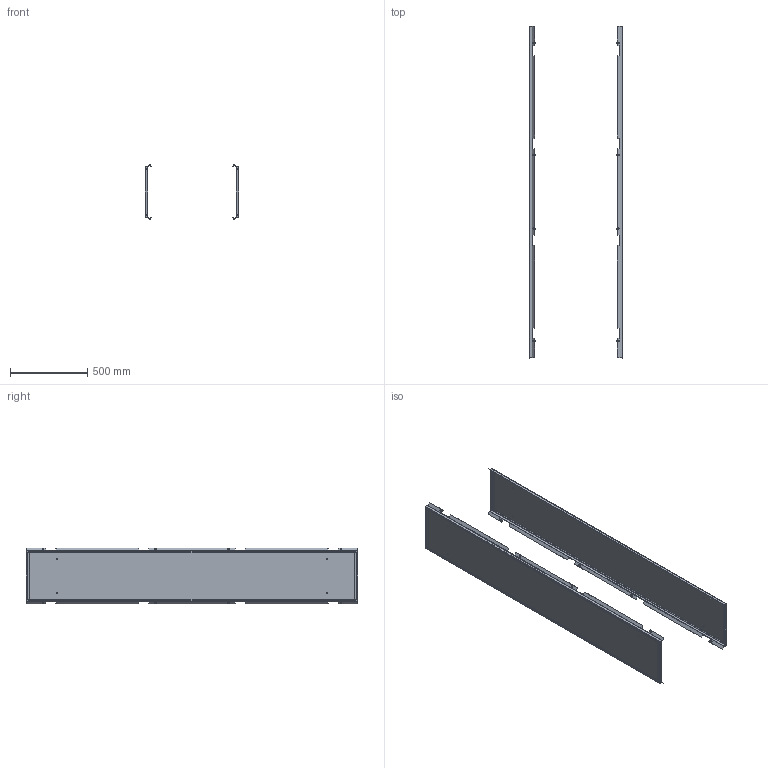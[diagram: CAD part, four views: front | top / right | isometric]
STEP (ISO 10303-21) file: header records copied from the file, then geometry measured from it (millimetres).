
FILE_DESCRIPTION (( 'STEP AP203' ), '1' );
FILE_NAME ('MA1.200.060422.20.00 AleSta-PS224 Áîêîâûå ïàíåëè AleSta 2200x400 (2 øò).STEP', '2025-02-19T14:41:33', ( '' ), ( '' ), 'SwSTEP 2.0', 'SolidWorks 2021', '' );
FILE_SCHEMA (( 'CONFIG_CONTROL_DESIGN' ));
Length unit declared in the file: millimetre
Products named in the file (6): MA1.200.060620.21.00 Ñòåíêà áîêîâàÿ 600x2000_2200å400; MA1.200.060620.21.01 Ïîëîòíî ñòåíêè áîêîâîé 600õ2000_2200å400; Óïëîòíèòåëü ïàíåëè íèæíåé_  ‚=2200; Âèíò ñàìîíàðåçàþùèé ñ ïîòàéíîé ãîëîâêîé Ì5x16 DIN 7500 M TORX, êëàññ ïðî÷íîñòè 8.8, îöèíêîâàííàÿ ñòàëü_Œ5å16; Øïèëüêà Ì6õ12_˜¯¨«ìª  Œ6å12; MA1.200.060422.20.00 AleSta-PS224  Áîêîâûå ïàíåëè AleSta 2200x400 (2 øò)
Assembly tree (24 placements, depth 3):
  MA1.200.060422.20.00 AleSta-PS224  Áîêîâûå ïàíåëè AleSta 2200x400 (2 øò)
    MA1.200.060620.21.00 Ñòåíêà áîêîâàÿ 600x2000_2200å400  x2
      MA1.200.060620.21.01 Ïîëîòíî ñòåíêè áîêîâîé 600õ2000_2200å400
      Øïèëüêà Ì6õ12_˜¯¨«ìª  Œ6å12
      Óïëîòíèòåëü ïàíåëè íèæíåé_  ‚=2200
    Âèíò ñàìîíàðåçàþùèé ñ ïîòàéíîé ãîëîâêîé Ì5x16 DIN 7500 M TORX, êëàññ ïðî÷íîñòè 8.8, îöèíêîâàííàÿ ñòàëü_Œ5å16  x16
Bounding box: 606 x 2145 x 360.73 mm (x, y, z)
Volume: 2381135.1 mm3; surface area: 3843194.5 mm2
Topology: 28 solids, 28 shells, 1116 faces, 2788 edges, 1784 vertices
Faces by surface type: cylinder 636, plane 368, cone 80, bspline 16, torus 16
Entity records: 8629 total; most frequent: CARTESIAN_POINT 1714, DIRECTION 1281, ORIENTED_EDGE 1158, EDGE_CURVE 579, AXIS2_PLACEMENT_3D 475, VERTEX_POINT 360, LINE 331, VECTOR 331
